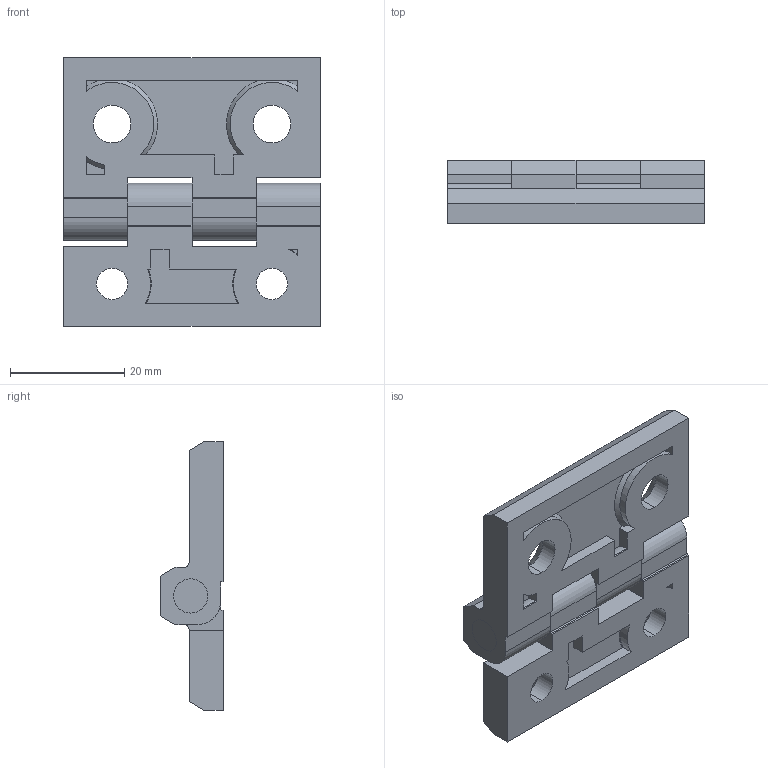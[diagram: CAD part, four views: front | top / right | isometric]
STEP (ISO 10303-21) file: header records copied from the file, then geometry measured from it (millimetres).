
FILE_DESCRIPTION (( 'STEP AP203' ), '1' );
FILE_NAME ('B01-2530.STEP', '2016-11-15T09:25:58', ( '' ), ( '' ), 'SwSTEP 2.0', 'SolidWorks 2013', '' );
FILE_SCHEMA (( 'CONFIG_CONTROL_DESIGN' ));
Length unit declared in the file: millimetre
Products named in the file (4): B01-25; B01-2530; B01-30; B01-軸心
Assembly tree (3 placements, depth 2):
  B01-2530
    B01-25
    B01-30
    B01-軸心
Bounding box: 45 x 11 x 47 mm (x, y, z)
Volume: 12279.3 mm3; surface area: 8636.5 mm2
Topology: 3 solids, 3 shells, 131 faces, 349 edges, 228 vertices
Faces by surface type: plane 77, cylinder 40, cone 14
Entity records: 4537 total; most frequent: CARTESIAN_POINT 769, DIRECTION 703, ORIENTED_EDGE 698, EDGE_CURVE 349, VECTOR 239, LINE 239, AXIS2_PLACEMENT_3D 232, VERTEX_POINT 228
